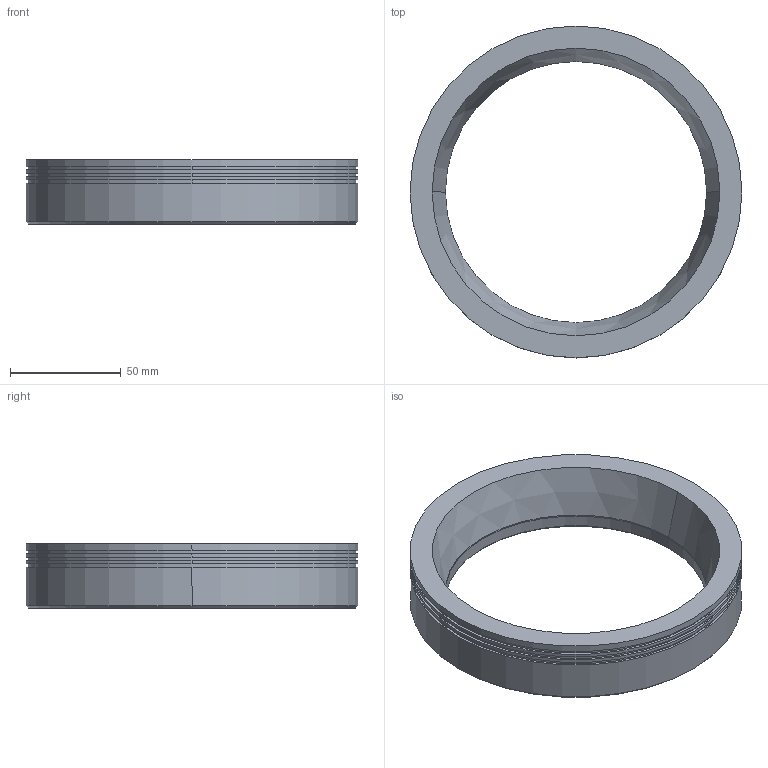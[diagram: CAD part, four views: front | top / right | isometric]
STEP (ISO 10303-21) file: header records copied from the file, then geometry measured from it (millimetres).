
FILE_DESCRIPTION((''),'2;1');
FILE_NAME('DRL7030','2020-03-28T',('ASUS'),(''),'PRO/ENGINEER BY PARAMETRIC TECHNOLOGY CORPORATION, 2008380','PRO/ENGINEER BY PARAMETRIC TECHNOLOGY CORPORATION, 2008380','');
FILE_SCHEMA(('CONFIG_CONTROL_DESIGN'));
Length unit declared in the file: millimetre
Products named in the file (1): DRL7030
Bounding box: 150 x 150 x 29 mm (x, y, z)
Volume: 166893.2 mm3; surface area: 39010.1 mm2
Topology: 1 solids, 5 shells, 68 faces, 152 edges, 92 vertices
Faces by surface type: cylinder 32, cone 22, plane 12, torus 2
Entity records: 1901 total; most frequent: DIRECTION 372, CARTESIAN_POINT 305, ORIENTED_EDGE 272, AXIS2_PLACEMENT_3D 159, EDGE_CURVE 144, VERTEX_POINT 92, CIRCLE 90, EDGE_LOOP 84
